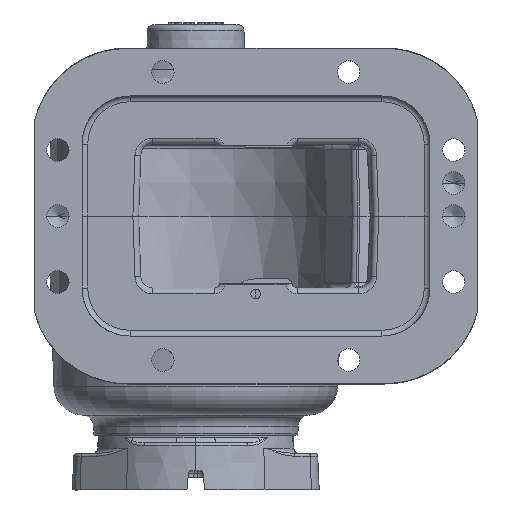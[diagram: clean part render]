
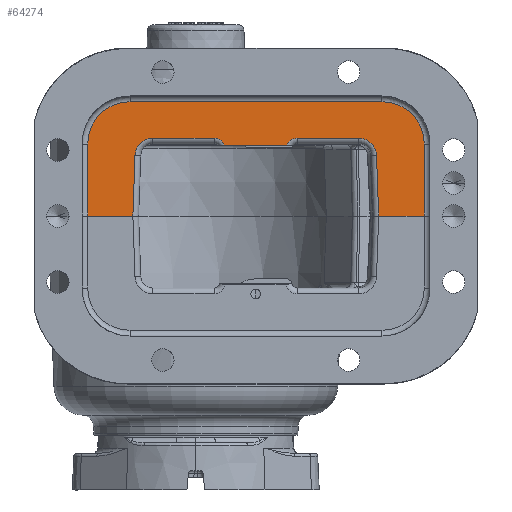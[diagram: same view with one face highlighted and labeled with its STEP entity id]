
A CAD part, front view. The second image highlights one B-rep face of the part: STEP entity #64274.
In plain terms, the highlighted planar face has unit normal (0, -1, 0).
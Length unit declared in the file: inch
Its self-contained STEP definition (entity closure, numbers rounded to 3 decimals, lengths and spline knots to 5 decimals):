
#111 = DIRECTION ( 'NONE',  ( 0., 0., -1. ) ) ;
#438 = ORIENTED_EDGE ( 'NONE', *, *, #38980, .F. ) ;
#1393 = ORIENTED_EDGE ( 'NONE', *, *, #35432, .F. ) ;
#2339 = DIRECTION ( 'NONE',  ( -1., 0., 0. ) ) ;
#2682 = VERTEX_POINT ( 'NONE', #33676 ) ;
#3453 = CARTESIAN_POINT ( 'NONE',  ( -1.5, -4.3, 4.76 ) ) ;
#4033 = ORIENTED_EDGE ( 'NONE', *, *, #10107, .F. ) ;
#4549 = LINE ( 'NONE', #92279, #78835 ) ;
#6796 = CARTESIAN_POINT ( 'NONE',  ( -3.5, -4.3, -3.37 ) ) ;
#6850 = CARTESIAN_POINT ( 'NONE',  ( -1.47, -4.3, 1.89503 ) ) ;
#7564 = CARTESIAN_POINT ( 'NONE',  ( -2.38, -4.3, 3.88 ) ) ;
#8080 = EDGE_LOOP ( 'NONE', ( #23795, #45063, #86283, #80420, #46544, #54838, #438, #4033, #50527, #1393, #78478, #21108, #16816, #10672, #77338, #22353 ) ) ;
#8302 = DIRECTION ( 'NONE',  ( 0., 0., -1. ) ) ;
#9408 = VERTEX_POINT ( 'NONE', #17152 ) ;
#9753 = VECTOR ( 'NONE', #32793, 39.37008 ) ;
#9934 = EDGE_CURVE ( 'NONE', #81339, #57151, #60200, .T. ) ;
#9938 = VERTEX_POINT ( 'NONE', #3453 ) ;
#10096 = DIRECTION ( 'NONE',  ( 0., 1., 0. ) ) ;
#10107 = EDGE_CURVE ( 'NONE', #2682, #9938, #12998, .T. ) ;
#10142 = CARTESIAN_POINT ( 'NONE',  ( -1.62, -4.3, -0.8962 ) ) ;
#10672 = ORIENTED_EDGE ( 'NONE', *, *, #45688, .F. ) ;
#12182 = DIRECTION ( 'NONE',  ( 0., 1., 0. ) ) ;
#12664 = CARTESIAN_POINT ( 'NONE',  ( -1.26291, -4.3, 3.76597 ) ) ;
#12695 = VERTEX_POINT ( 'NONE', #65134 ) ;
#12880 = EDGE_CURVE ( 'NONE', #34867, #20095, #23603, .T. ) ;
#12998 = CIRCLE ( 'NONE', #66256, 0.88 ) ;
#14683 = DIRECTION ( 'NONE',  ( 1., 0., 0. ) ) ;
#14885 = DIRECTION ( 'NONE',  ( 0., 1., 0. ) ) ;
#15522 = CARTESIAN_POINT ( 'NONE',  ( -1.25, -4.3, 3.3962 ) ) ;
#15648 = AXIS2_PLACEMENT_3D ( 'NONE', #80882, #65628, #93812 ) ;
#15686 = LINE ( 'NONE', #44772, #9753 ) ;
#16064 = CARTESIAN_POINT ( 'NONE',  ( 0., -4.3, 4.76 ) ) ;
#16816 = ORIENTED_EDGE ( 'NONE', *, *, #17893, .F. ) ;
#16845 = CIRCLE ( 'NONE', #25952, 0.24 ) ;
#16967 = VERTEX_POINT ( 'NONE', #64841 ) ;
#17152 = CARTESIAN_POINT ( 'NONE',  ( 0., -4.3, 3.81007 ) ) ;
#17893 = EDGE_CURVE ( 'NONE', #36209, #20095, #53353, .T. ) ;
#18045 = CARTESIAN_POINT ( 'NONE',  ( -1.5, -4.3, -2.25 ) ) ;
#18208 = DIRECTION ( 'NONE',  ( 0., -1., 0. ) ) ;
#19006 = LINE ( 'NONE', #71435, #37834 ) ;
#19059 = VECTOR ( 'NONE', #30927, 39.37008 ) ;
#19099 = AXIS2_PLACEMENT_3D ( 'NONE', #15522, #18208, #88468 ) ;
#20095 = VERTEX_POINT ( 'NONE', #58080 ) ;
#21108 = ORIENTED_EDGE ( 'NONE', *, *, #12880, .T. ) ;
#22353 = ORIENTED_EDGE ( 'NONE', *, *, #89902, .F. ) ;
#23018 = EDGE_CURVE ( 'NONE', #34867, #25927, #67630, .T. ) ;
#23603 = LINE ( 'NONE', #67939, #55940 ) ;
#23795 = ORIENTED_EDGE ( 'NONE', *, *, #64282, .F. ) ;
#23968 = CARTESIAN_POINT ( 'NONE',  ( 0., -4.3, -2.25 ) ) ;
#25927 = VERTEX_POINT ( 'NONE', #35226 ) ;
#25952 = AXIS2_PLACEMENT_3D ( 'NONE', #35964, #57890, #8302 ) ;
#26754 = VECTOR ( 'NONE', #2339, 39.37008 ) ;
#29308 = CIRCLE ( 'NONE', #15648, 0.37 ) ;
#29626 = CARTESIAN_POINT ( 'NONE',  ( -1.47, -4.3, -3.37 ) ) ;
#30001 = EDGE_CURVE ( 'NONE', #16967, #89055, #15686, .T. ) ;
#30927 = DIRECTION ( 'NONE',  ( 0.999, 0., -0.035 ) ) ;
#32743 = VERTEX_POINT ( 'NONE', #16064 ) ;
#32793 = DIRECTION ( 'NONE',  ( 0., 0., -1. ) ) ;
#33007 = CARTESIAN_POINT ( 'NONE',  ( -1.38, -4.3, 0.38248 ) ) ;
#33676 = CARTESIAN_POINT ( 'NONE',  ( -2.38, -4.3, 3.88 ) ) ;
#34867 = VERTEX_POINT ( 'NONE', #23968 ) ;
#35226 = CARTESIAN_POINT ( 'NONE',  ( -1.5, -4.3, -2.25 ) ) ;
#35415 = CIRCLE ( 'NONE', #47595, 0.24 ) ;
#35432 = EDGE_CURVE ( 'NONE', #25927, #55225, #79100, .T. ) ;
#35442 = VECTOR ( 'NONE', #56703, 39.37008 ) ;
#35890 = CARTESIAN_POINT ( 'NONE',  ( -1.62, -4.3, 3.3962 ) ) ;
#35964 = CARTESIAN_POINT ( 'NONE',  ( -1.38, -4.3, 2.11752 ) ) ;
#36209 = VERTEX_POINT ( 'NONE', #90166 ) ;
#36856 = EDGE_CURVE ( 'NONE', #9408, #81339, #77982, .T. ) ;
#37834 = VECTOR ( 'NONE', #14683, 39.37008 ) ;
#38980 = EDGE_CURVE ( 'NONE', #9938, #32743, #19006, .T. ) ;
#41752 = DIRECTION ( 'NONE',  ( -0.999, 0., -0.035 ) ) ;
#42561 = LINE ( 'NONE', #29626, #48857 ) ;
#44772 = CARTESIAN_POINT ( 'NONE',  ( -1.62, -4.3, -0.8962 ) ) ;
#45063 = ORIENTED_EDGE ( 'NONE', *, *, #63855, .F. ) ;
#45688 = EDGE_CURVE ( 'NONE', #89055, #36209, #29308, .T. ) ;
#45880 = EDGE_CURVE ( 'NONE', #9408, #32743, #60364, .T. ) ;
#46544 = ORIENTED_EDGE ( 'NONE', *, *, #36856, .F. ) ;
#47595 = AXIS2_PLACEMENT_3D ( 'NONE', #33007, #84983, #62088 ) ;
#48857 = VECTOR ( 'NONE', #111, 39.37008 ) ;
#50527 = ORIENTED_EDGE ( 'NONE', *, *, #62397, .F. ) ;
#52279 = CARTESIAN_POINT ( 'NONE',  ( -2.38, -4.3, -1.37 ) ) ;
#53353 = LINE ( 'NONE', #67638, #19059 ) ;
#53400 = AXIS2_PLACEMENT_3D ( 'NONE', #6796, #14885, #57336 ) ;
#54838 = ORIENTED_EDGE ( 'NONE', *, *, #45880, .T. ) ;
#55225 = VERTEX_POINT ( 'NONE', #52279 ) ;
#55940 = VECTOR ( 'NONE', #73696, 39.37008 ) ;
#56703 = DIRECTION ( 'NONE',  ( 0., 0., 1. ) ) ;
#57151 = VERTEX_POINT ( 'NONE', #35890 ) ;
#57336 = DIRECTION ( 'NONE',  ( 0., 0., -1. ) ) ;
#57890 = DIRECTION ( 'NONE',  ( 0., -1., 0. ) ) ;
#58080 = CARTESIAN_POINT ( 'NONE',  ( 0., -4.3, -1.31007 ) ) ;
#59200 = CARTESIAN_POINT ( 'NONE',  ( -1.26291, -4.3, 3.76597 ) ) ;
#59411 = CARTESIAN_POINT ( 'NONE',  ( 0., -4.3, -3.37 ) ) ;
#60200 = CIRCLE ( 'NONE', #19099, 0.37 ) ;
#60364 = LINE ( 'NONE', #59411, #87327 ) ;
#60557 = VERTEX_POINT ( 'NONE', #60832 ) ;
#60832 = CARTESIAN_POINT ( 'NONE',  ( -1.47, -4.3, 0.60497 ) ) ;
#62088 = DIRECTION ( 'NONE',  ( 0., 0., -1. ) ) ;
#62397 = EDGE_CURVE ( 'NONE', #55225, #2682, #78659, .T. ) ;
#63855 = EDGE_CURVE ( 'NONE', #12695, #66988, #16845, .T. ) ;
#64274 = ADVANCED_FACE ( 'NONE', ( #65403 ), #71628, .F. ) ;
#64282 = EDGE_CURVE ( 'NONE', #66988, #60557, #42561, .T. ) ;
#64841 = CARTESIAN_POINT ( 'NONE',  ( -1.62, -4.3, 0.38248 ) ) ;
#65134 = CARTESIAN_POINT ( 'NONE',  ( -1.62, -4.3, 2.11752 ) ) ;
#65403 = FACE_OUTER_BOUND ( 'NONE', #8080, .T. ) ;
#65628 = DIRECTION ( 'NONE',  ( 0., -1., 0. ) ) ;
#66256 = AXIS2_PLACEMENT_3D ( 'NONE', #88317, #10096, #81632 ) ;
#66884 = AXIS2_PLACEMENT_3D ( 'NONE', #91803, #12182, #69383 ) ;
#66988 = VERTEX_POINT ( 'NONE', #6850 ) ;
#67630 = LINE ( 'NONE', #18045, #26754 ) ;
#67638 = CARTESIAN_POINT ( 'NONE',  ( -0.00419, -4.3, -1.30993 ) ) ;
#67939 = CARTESIAN_POINT ( 'NONE',  ( 0., -4.3, -3.37 ) ) ;
#69383 = DIRECTION ( 'NONE',  ( 0., 0., -1. ) ) ;
#71435 = CARTESIAN_POINT ( 'NONE',  ( 0., -4.3, 4.76 ) ) ;
#71628 = PLANE ( 'NONE',  #53400 ) ;
#71666 = VECTOR ( 'NONE', #41752, 39.37008 ) ;
#73696 = DIRECTION ( 'NONE',  ( 0., 0., 1. ) ) ;
#77027 = DIRECTION ( 'NONE',  ( 0., 0., -1. ) ) ;
#77338 = ORIENTED_EDGE ( 'NONE', *, *, #30001, .F. ) ;
#77982 = LINE ( 'NONE', #12664, #71666 ) ;
#78478 = ORIENTED_EDGE ( 'NONE', *, *, #23018, .F. ) ;
#78659 = LINE ( 'NONE', #7564, #35442 ) ;
#78835 = VECTOR ( 'NONE', #77027, 39.37008 ) ;
#79100 = CIRCLE ( 'NONE', #66884, 0.88 ) ;
#80420 = ORIENTED_EDGE ( 'NONE', *, *, #9934, .F. ) ;
#80882 = CARTESIAN_POINT ( 'NONE',  ( -1.25, -4.3, -0.8962 ) ) ;
#81339 = VERTEX_POINT ( 'NONE', #59200 ) ;
#81632 = DIRECTION ( 'NONE',  ( 0., 0., -1. ) ) ;
#83322 = EDGE_CURVE ( 'NONE', #57151, #12695, #4549, .T. ) ;
#84983 = DIRECTION ( 'NONE',  ( 0., -1., 0. ) ) ;
#86283 = ORIENTED_EDGE ( 'NONE', *, *, #83322, .F. ) ;
#87327 = VECTOR ( 'NONE', #89468, 39.37008 ) ;
#88317 = CARTESIAN_POINT ( 'NONE',  ( -1.5, -4.3, 3.88 ) ) ;
#88468 = DIRECTION ( 'NONE',  ( 0., 0., -1. ) ) ;
#89055 = VERTEX_POINT ( 'NONE', #10142 ) ;
#89468 = DIRECTION ( 'NONE',  ( 0., 0., 1. ) ) ;
#89902 = EDGE_CURVE ( 'NONE', #60557, #16967, #35415, .T. ) ;
#90166 = CARTESIAN_POINT ( 'NONE',  ( -1.26291, -4.3, -1.26597 ) ) ;
#91803 = CARTESIAN_POINT ( 'NONE',  ( -1.5, -4.3, -1.37 ) ) ;
#92279 = CARTESIAN_POINT ( 'NONE',  ( -1.62, -4.3, 2.11752 ) ) ;
#93812 = DIRECTION ( 'NONE',  ( 0., 0., -1. ) ) ;
